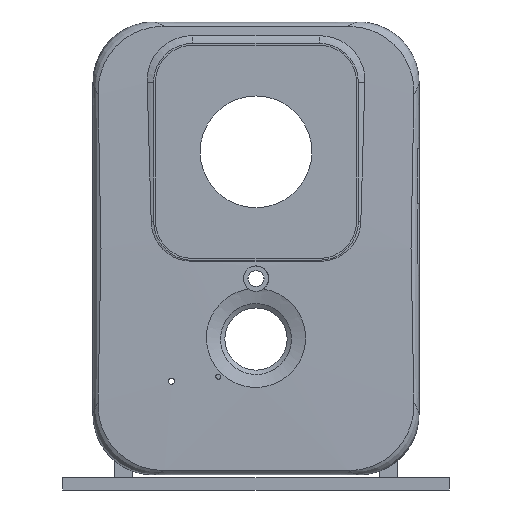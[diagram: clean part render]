
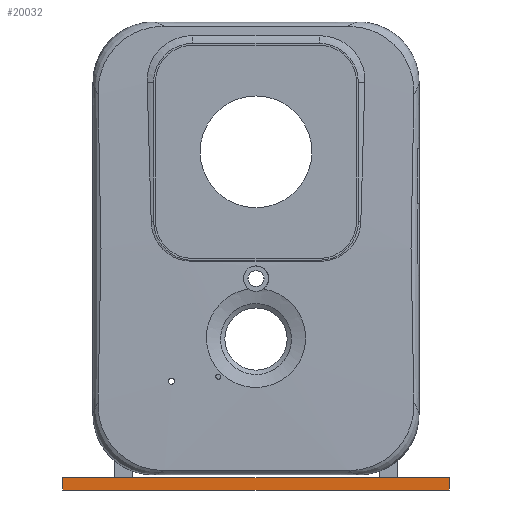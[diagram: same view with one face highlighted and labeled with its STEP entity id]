
A CAD part, front view. The second image highlights one B-rep face of the part: STEP entity #20032.
In plain terms, the highlighted planar face has unit normal (0, -1, 0).
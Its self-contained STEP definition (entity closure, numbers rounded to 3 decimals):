
#6779 = PLANE('',#6780);
#6780 = AXIS2_PLACEMENT_3D('',#6781,#6782,#6783);
#6781 = CARTESIAN_POINT('',(-64.,-33.,-76.));
#6782 = DIRECTION('',(0.,0.,1.));
#6783 = DIRECTION('',(1.,0.,0.));
#12485 = VERTEX_POINT('',#12486);
#12486 = CARTESIAN_POINT('',(-64.,-33.,-76.));
#12502 = PLANE('',#12503);
#12503 = AXIS2_PLACEMENT_3D('',#12504,#12505,#12506);
#12504 = CARTESIAN_POINT('',(-64.,-33.,-80.));
#12505 = DIRECTION('',(1.,0.,0.));
#12506 = DIRECTION('',(0.,0.,1.));
#12514 = EDGE_CURVE('',#12485,#12515,#12517,.T.);
#12515 = VERTEX_POINT('',#12516);
#12516 = CARTESIAN_POINT('',(64.,-33.,-76.));
#12517 = SURFACE_CURVE('',#12518,(#12522,#12529),.PCURVE_S1.);
#12518 = LINE('',#12519,#12520);
#12519 = CARTESIAN_POINT('',(-64.,-33.,-76.));
#12520 = VECTOR('',#12521,1.);
#12521 = DIRECTION('',(1.,0.,0.));
#12522 = PCURVE('',#6779,#12523);
#12523 = DEFINITIONAL_REPRESENTATION('',(#12524),#12528);
#12524 = LINE('',#12525,#12526);
#12525 = CARTESIAN_POINT('',(0.,0.));
#12526 = VECTOR('',#12527,1.);
#12527 = DIRECTION('',(1.,0.));
#12528 = ( GEOMETRIC_REPRESENTATION_CONTEXT(2) 
PARAMETRIC_REPRESENTATION_CONTEXT() REPRESENTATION_CONTEXT('2D SPACE',''
  ) );
#12529 = PCURVE('',#12530,#12535);
#12530 = PLANE('',#12531);
#12531 = AXIS2_PLACEMENT_3D('',#12532,#12533,#12534);
#12532 = CARTESIAN_POINT('',(-64.,-33.,-80.));
#12533 = DIRECTION('',(0.,1.,0.));
#12534 = DIRECTION('',(0.,0.,1.));
#12535 = DEFINITIONAL_REPRESENTATION('',(#12536),#12540);
#12536 = LINE('',#12537,#12538);
#12537 = CARTESIAN_POINT('',(4.,0.));
#12538 = VECTOR('',#12539,1.);
#12539 = DIRECTION('',(0.,1.));
#12540 = ( GEOMETRIC_REPRESENTATION_CONTEXT(2) 
PARAMETRIC_REPRESENTATION_CONTEXT() REPRESENTATION_CONTEXT('2D SPACE',''
  ) );
#12558 = PLANE('',#12559);
#12559 = AXIS2_PLACEMENT_3D('',#12560,#12561,#12562);
#12560 = CARTESIAN_POINT('',(64.,-33.,-80.));
#12561 = DIRECTION('',(1.,0.,0.));
#12562 = DIRECTION('',(0.,0.,1.));
#19911 = EDGE_CURVE('',#19912,#12485,#19914,.T.);
#19912 = VERTEX_POINT('',#19913);
#19913 = CARTESIAN_POINT('',(-64.,-33.,-80.));
#19914 = SURFACE_CURVE('',#19915,(#19919,#19926),.PCURVE_S1.);
#19915 = LINE('',#19916,#19917);
#19916 = CARTESIAN_POINT('',(-64.,-33.,-80.));
#19917 = VECTOR('',#19918,1.);
#19918 = DIRECTION('',(0.,0.,1.));
#19919 = PCURVE('',#12502,#19920);
#19920 = DEFINITIONAL_REPRESENTATION('',(#19921),#19925);
#19921 = LINE('',#19922,#19923);
#19922 = CARTESIAN_POINT('',(0.,0.));
#19923 = VECTOR('',#19924,1.);
#19924 = DIRECTION('',(1.,0.));
#19925 = ( GEOMETRIC_REPRESENTATION_CONTEXT(2) 
PARAMETRIC_REPRESENTATION_CONTEXT() REPRESENTATION_CONTEXT('2D SPACE',''
  ) );
#19926 = PCURVE('',#12530,#19927);
#19927 = DEFINITIONAL_REPRESENTATION('',(#19928),#19932);
#19928 = LINE('',#19929,#19930);
#19929 = CARTESIAN_POINT('',(0.,0.));
#19930 = VECTOR('',#19931,1.);
#19931 = DIRECTION('',(1.,0.));
#19932 = ( GEOMETRIC_REPRESENTATION_CONTEXT(2) 
PARAMETRIC_REPRESENTATION_CONTEXT() REPRESENTATION_CONTEXT('2D SPACE',''
  ) );
#19950 = PLANE('',#19951);
#19951 = AXIS2_PLACEMENT_3D('',#19952,#19953,#19954);
#19952 = CARTESIAN_POINT('',(-64.,-33.,-80.));
#19953 = DIRECTION('',(0.,0.,1.));
#19954 = DIRECTION('',(1.,0.,0.));
#20032 = ADVANCED_FACE('',(#20033),#12530,.F.);
#20033 = FACE_BOUND('',#20034,.F.);
#20034 = EDGE_LOOP('',(#20035,#20058,#20059,#20060));
#20035 = ORIENTED_EDGE('',*,*,#20036,.F.);
#20036 = EDGE_CURVE('',#19912,#20037,#20039,.T.);
#20037 = VERTEX_POINT('',#20038);
#20038 = CARTESIAN_POINT('',(64.,-33.,-80.));
#20039 = SURFACE_CURVE('',#20040,(#20044,#20051),.PCURVE_S1.);
#20040 = LINE('',#20041,#20042);
#20041 = CARTESIAN_POINT('',(-64.,-33.,-80.));
#20042 = VECTOR('',#20043,1.);
#20043 = DIRECTION('',(1.,0.,0.));
#20044 = PCURVE('',#12530,#20045);
#20045 = DEFINITIONAL_REPRESENTATION('',(#20046),#20050);
#20046 = LINE('',#20047,#20048);
#20047 = CARTESIAN_POINT('',(0.,0.));
#20048 = VECTOR('',#20049,1.);
#20049 = DIRECTION('',(0.,1.));
#20050 = ( GEOMETRIC_REPRESENTATION_CONTEXT(2) 
PARAMETRIC_REPRESENTATION_CONTEXT() REPRESENTATION_CONTEXT('2D SPACE',''
  ) );
#20051 = PCURVE('',#19950,#20052);
#20052 = DEFINITIONAL_REPRESENTATION('',(#20053),#20057);
#20053 = LINE('',#20054,#20055);
#20054 = CARTESIAN_POINT('',(0.,0.));
#20055 = VECTOR('',#20056,1.);
#20056 = DIRECTION('',(1.,0.));
#20057 = ( GEOMETRIC_REPRESENTATION_CONTEXT(2) 
PARAMETRIC_REPRESENTATION_CONTEXT() REPRESENTATION_CONTEXT('2D SPACE',''
  ) );
#20058 = ORIENTED_EDGE('',*,*,#19911,.T.);
#20059 = ORIENTED_EDGE('',*,*,#12514,.T.);
#20060 = ORIENTED_EDGE('',*,*,#20061,.F.);
#20061 = EDGE_CURVE('',#20037,#12515,#20062,.T.);
#20062 = SURFACE_CURVE('',#20063,(#20067,#20074),.PCURVE_S1.);
#20063 = LINE('',#20064,#20065);
#20064 = CARTESIAN_POINT('',(64.,-33.,-80.));
#20065 = VECTOR('',#20066,1.);
#20066 = DIRECTION('',(0.,0.,1.));
#20067 = PCURVE('',#12530,#20068);
#20068 = DEFINITIONAL_REPRESENTATION('',(#20069),#20073);
#20069 = LINE('',#20070,#20071);
#20070 = CARTESIAN_POINT('',(0.,128.));
#20071 = VECTOR('',#20072,1.);
#20072 = DIRECTION('',(1.,0.));
#20073 = ( GEOMETRIC_REPRESENTATION_CONTEXT(2) 
PARAMETRIC_REPRESENTATION_CONTEXT() REPRESENTATION_CONTEXT('2D SPACE',''
  ) );
#20074 = PCURVE('',#12558,#20075);
#20075 = DEFINITIONAL_REPRESENTATION('',(#20076),#20080);
#20076 = LINE('',#20077,#20078);
#20077 = CARTESIAN_POINT('',(0.,0.));
#20078 = VECTOR('',#20079,1.);
#20079 = DIRECTION('',(1.,0.));
#20080 = ( GEOMETRIC_REPRESENTATION_CONTEXT(2) 
PARAMETRIC_REPRESENTATION_CONTEXT() REPRESENTATION_CONTEXT('2D SPACE',''
  ) );
